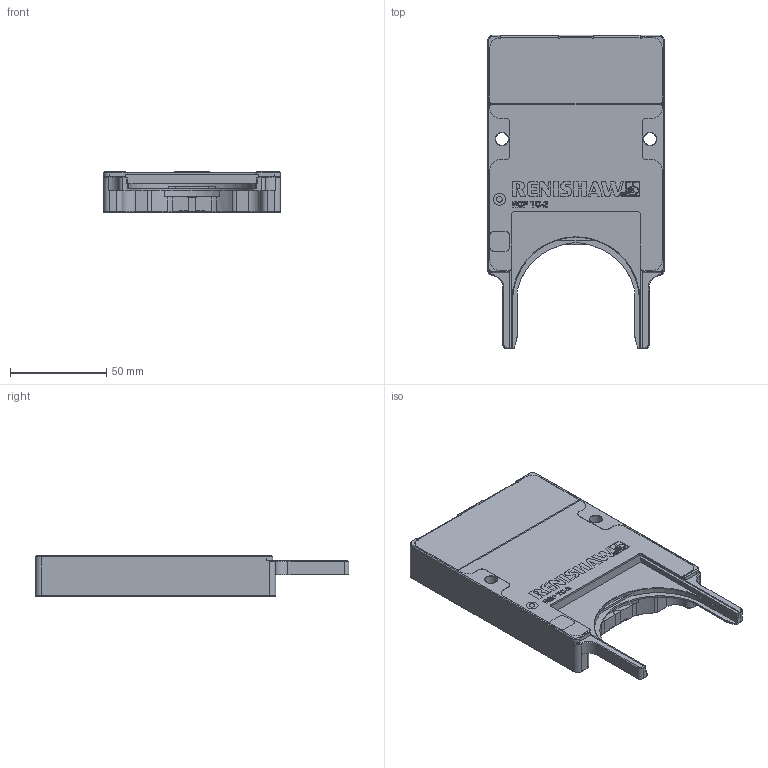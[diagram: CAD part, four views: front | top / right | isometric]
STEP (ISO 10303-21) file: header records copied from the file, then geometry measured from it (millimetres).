
FILE_DESCRIPTION(/* description */ (''),/* implementation_level */ '2;1');
FILE_NAME(/* name */ 'LA-3061-3307-B.stp',/* time_stamp */ '2016-12-02T10:40:54+00:00',/* author */ (''),/* organization */ (''),/* preprocessor_version */ 'ST-DEVELOPER v16',/* originating_system */ 'SIEMENS PLM Software NX 10.0',/* authorisation */ '');
FILE_SCHEMA (('AUTOMOTIVE_DESIGN { 1 0 10303 214 3 1 1 1 }'));
Length unit declared in the file: millimetre
Products named in the file (1): rt132898B524jv6w
Bounding box: 92 x 163 x 21 mm (x, y, z)
Volume: 212354.3 mm3; surface area: 34558.6 mm2
Topology: 1 solids, 1 shells, 258 faces, 832 edges, 615 vertices
Faces by surface type: plane 154, cylinder 68, cone 36
Full cylindrical faces by diameter (mm): 6.5 x2, 11 x2
Entity records: 10212 total; most frequent: CARTESIAN_POINT 2380, ORIENTED_EDGE 1644, DIRECTION 1398, EDGE_CURVE 822, VERTEX_POINT 613, AXIS2_PLACEMENT_3D 479, LINE 440, VECTOR 440
